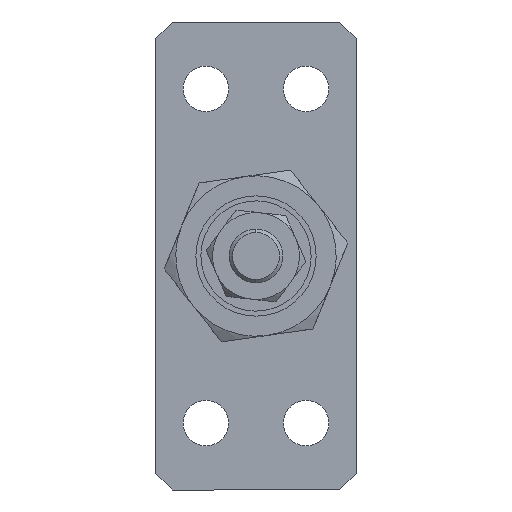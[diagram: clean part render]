
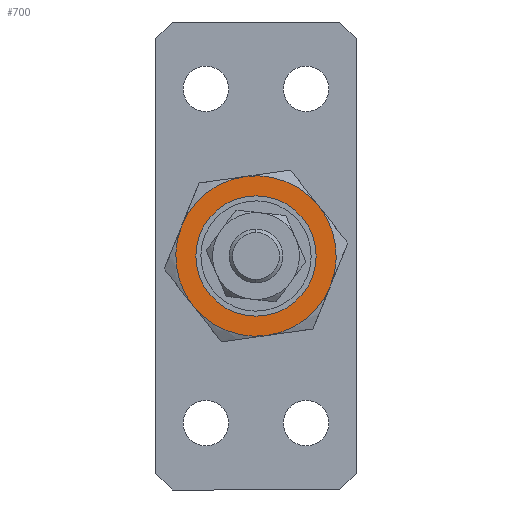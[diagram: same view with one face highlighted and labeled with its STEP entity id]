
A CAD part, left-side view. The second image highlights one B-rep face of the part: STEP entity #700.
In plain terms, the highlighted planar face has unit normal (-1, 0, 0) as drawn and (0, 0, -1) by its records, which use the part's own axes.
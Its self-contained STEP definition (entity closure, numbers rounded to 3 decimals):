
#195 = DIRECTION ( 'NONE',  ( 0., 0., 1. ) ) ;
#322 = DIRECTION ( 'NONE',  ( 1., 0., 0. ) ) ;
#390 = DIRECTION ( 'NONE',  ( 0., 0., 1. ) ) ;
#396 = DIRECTION ( 'NONE',  ( 1., 0., 0. ) ) ;
#473 = AXIS2_PLACEMENT_3D ( 'NONE', #727, #2238, #2165 ) ;
#508 = DIRECTION ( 'NONE',  ( 0., 0., 1. ) ) ;
#585 = CIRCLE ( 'NONE', #2315, 12. ) ;
#605 = EDGE_LOOP ( 'NONE', ( #4146, #1128 ) ) ;
#623 = AXIS2_PLACEMENT_3D ( 'NONE', #1730, #195, #2706 ) ;
#653 = CARTESIAN_POINT ( 'NONE',  ( 0., 0., -4. ) ) ;
#700 = ADVANCED_FACE ( 'NONE', ( #3354, #1351 ), #2839, .F. ) ;
#702 = CARTESIAN_POINT ( 'NONE',  ( 12., 0., -4. ) ) ;
#727 = CARTESIAN_POINT ( 'NONE',  ( 0., 0., -4. ) ) ;
#1023 = DIRECTION ( 'NONE',  ( 0., 0., 1. ) ) ;
#1128 = ORIENTED_EDGE ( 'NONE', *, *, #2623, .T. ) ;
#1165 = AXIS2_PLACEMENT_3D ( 'NONE', #2806, #2600, #2527 ) ;
#1190 = EDGE_CURVE ( 'NONE', #1354, #3065, #585, .T. ) ;
#1243 = CARTESIAN_POINT ( 'NONE',  ( 8.25, 0., -4. ) ) ;
#1296 = VERTEX_POINT ( 'NONE', #2032 ) ;
#1351 = FACE_OUTER_BOUND ( 'NONE', #1723, .T. ) ;
#1354 = VERTEX_POINT ( 'NONE', #702 ) ;
#1390 = CIRCLE ( 'NONE', #473, 12. ) ;
#1702 = ORIENTED_EDGE ( 'NONE', *, *, #4079, .F. ) ;
#1723 = EDGE_LOOP ( 'NONE', ( #3347, #3052, #1702, #4110, #1921, #3462 ) ) ;
#1730 = CARTESIAN_POINT ( 'NONE',  ( 0., 0., -4. ) ) ;
#1754 = EDGE_CURVE ( 'NONE', #2430, #2154, #4125, .T. ) ;
#1767 = CARTESIAN_POINT ( 'NONE',  ( -6., 10.392, -4. ) ) ;
#1921 = ORIENTED_EDGE ( 'NONE', *, *, #1754, .F. ) ;
#1947 = AXIS2_PLACEMENT_3D ( 'NONE', #3810, #3437, #2347 ) ;
#1966 = CIRCLE ( 'NONE', #1165, 12. ) ;
#1995 = CARTESIAN_POINT ( 'NONE',  ( 6., 10.392, -4. ) ) ;
#2032 = CARTESIAN_POINT ( 'NONE',  ( 6., -10.392, -4. ) ) ;
#2057 = EDGE_CURVE ( 'NONE', #1296, #1354, #4216, .T. ) ;
#2106 = DIRECTION ( 'NONE',  ( 1., 0., 0. ) ) ;
#2154 = VERTEX_POINT ( 'NONE', #3660 ) ;
#2165 = DIRECTION ( 'NONE',  ( 1., 0., 0. ) ) ;
#2178 = CARTESIAN_POINT ( 'NONE',  ( 0., 0., -4. ) ) ;
#2200 = CARTESIAN_POINT ( 'NONE',  ( 0., 0., -4. ) ) ;
#2205 = AXIS2_PLACEMENT_3D ( 'NONE', #3162, #3726, #396 ) ;
#2238 = DIRECTION ( 'NONE',  ( 0., 0., 1. ) ) ;
#2315 = AXIS2_PLACEMENT_3D ( 'NONE', #2178, #1023, #2106 ) ;
#2347 = DIRECTION ( 'NONE',  ( 1., 0., 0. ) ) ;
#2430 = VERTEX_POINT ( 'NONE', #1767 ) ;
#2527 = DIRECTION ( 'NONE',  ( 1., 0., 0. ) ) ;
#2570 = VERTEX_POINT ( 'NONE', #2846 ) ;
#2600 = DIRECTION ( 'NONE',  ( 0., 0., 1. ) ) ;
#2623 = EDGE_CURVE ( 'NONE', #2570, #3381, #2668, .T. ) ;
#2626 = CIRCLE ( 'NONE', #3763, 8.25 ) ;
#2668 = CIRCLE ( 'NONE', #1947, 8.25 ) ;
#2706 = DIRECTION ( 'NONE',  ( 1., 0., 0. ) ) ;
#2806 = CARTESIAN_POINT ( 'NONE',  ( 0., 0., -4. ) ) ;
#2834 = CIRCLE ( 'NONE', #3576, 12. ) ;
#2839 = PLANE ( 'NONE',  #2205 ) ;
#2846 = CARTESIAN_POINT ( 'NONE',  ( -8.25, 0., -4. ) ) ;
#3052 = ORIENTED_EDGE ( 'NONE', *, *, #2057, .F. ) ;
#3065 = VERTEX_POINT ( 'NONE', #1995 ) ;
#3162 = CARTESIAN_POINT ( 'NONE',  ( 0., 0., -4. ) ) ;
#3256 = DIRECTION ( 'NONE',  ( 1., 0., 0. ) ) ;
#3328 = EDGE_CURVE ( 'NONE', #2154, #4047, #1390, .T. ) ;
#3347 = ORIENTED_EDGE ( 'NONE', *, *, #1190, .F. ) ;
#3354 = FACE_BOUND ( 'NONE', #605, .T. ) ;
#3357 = EDGE_CURVE ( 'NONE', #3381, #2570, #2626, .T. ) ;
#3381 = VERTEX_POINT ( 'NONE', #1243 ) ;
#3414 = CARTESIAN_POINT ( 'NONE',  ( -6., -10.392, -4. ) ) ;
#3428 = EDGE_CURVE ( 'NONE', #3065, #2430, #1966, .T. ) ;
#3437 = DIRECTION ( 'NONE',  ( 0., 0., 1. ) ) ;
#3462 = ORIENTED_EDGE ( 'NONE', *, *, #3428, .F. ) ;
#3576 = AXIS2_PLACEMENT_3D ( 'NONE', #3633, #390, #322 ) ;
#3633 = CARTESIAN_POINT ( 'NONE',  ( 0., 0., -4. ) ) ;
#3660 = CARTESIAN_POINT ( 'NONE',  ( -12., 0., -4. ) ) ;
#3724 = DIRECTION ( 'NONE',  ( 1., 0., 0. ) ) ;
#3726 = DIRECTION ( 'NONE',  ( 0., 0., 1. ) ) ;
#3763 = AXIS2_PLACEMENT_3D ( 'NONE', #653, #508, #3256 ) ;
#3791 = AXIS2_PLACEMENT_3D ( 'NONE', #2200, #4152, #3724 ) ;
#3810 = CARTESIAN_POINT ( 'NONE',  ( 0., 0., -4. ) ) ;
#4047 = VERTEX_POINT ( 'NONE', #3414 ) ;
#4079 = EDGE_CURVE ( 'NONE', #4047, #1296, #2834, .T. ) ;
#4110 = ORIENTED_EDGE ( 'NONE', *, *, #3328, .F. ) ;
#4125 = CIRCLE ( 'NONE', #3791, 12. ) ;
#4146 = ORIENTED_EDGE ( 'NONE', *, *, #3357, .T. ) ;
#4152 = DIRECTION ( 'NONE',  ( 0., 0., 1. ) ) ;
#4216 = CIRCLE ( 'NONE', #623, 12. ) ;
